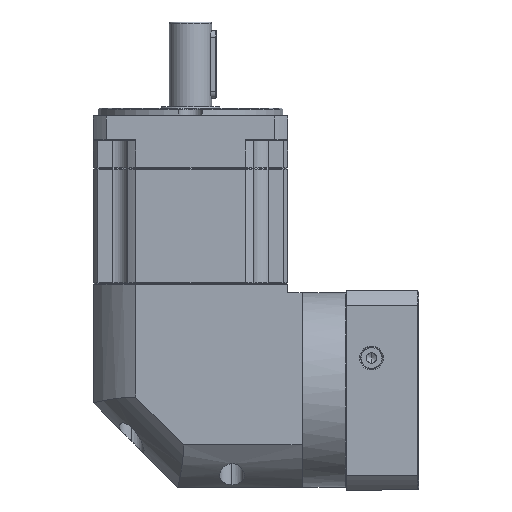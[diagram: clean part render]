
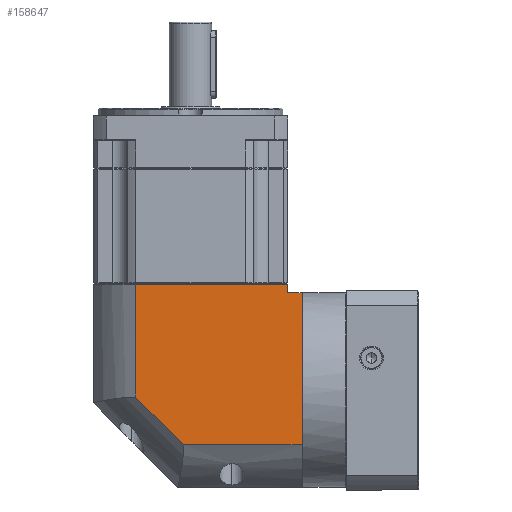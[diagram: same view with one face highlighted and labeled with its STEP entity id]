
A CAD part, left-side view. The second image highlights one B-rep face of the part: STEP entity #158647.
In plain terms, the highlighted planar face has unit normal (-1, 0, 0).
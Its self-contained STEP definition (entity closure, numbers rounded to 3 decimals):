
#1291 = EDGE_LOOP ( 'NONE', ( #126935, #92213, #116553, #98357, #66111, #42590, #87831 ) ) ;
#12212 = LINE ( 'NONE', #29931, #115059 ) ;
#12221 = VERTEX_POINT ( 'NONE', #53473 ) ;
#12896 = CARTESIAN_POINT ( 'NONE',  ( -232.004, 22.433, 127.551 ) ) ;
#13130 = DIRECTION ( 'NONE',  ( 0., 1., 0. ) ) ;
#15671 = DIRECTION ( 'NONE',  ( 0., -1., 0. ) ) ;
#29428 = EDGE_CURVE ( 'NONE', #156623, #12221, #62020, .T. ) ;
#29931 = CARTESIAN_POINT ( 'NONE',  ( -232.004, -5.905, 32.651 ) ) ;
#33280 = LINE ( 'NONE', #87295, #100334 ) ;
#34007 = VECTOR ( 'NONE', #138638, 1000. ) ;
#35844 = LINE ( 'NONE', #146867, #71514 ) ;
#38203 = LINE ( 'NONE', #139220, #34007 ) ;
#38593 = DIRECTION ( 'NONE',  ( 0., 1., 0. ) ) ;
#40062 = EDGE_CURVE ( 'NONE', #96187, #156623, #38203, .T. ) ;
#42590 = ORIENTED_EDGE ( 'NONE', *, *, #130346, .T. ) ;
#43925 = CARTESIAN_POINT ( 'NONE',  ( -232.004, 22.433, 60.989 ) ) ;
#48381 = AXIS2_PLACEMENT_3D ( 'NONE', #131970, #51672, #145518 ) ;
#49025 = VECTOR ( 'NONE', #38593, 1000. ) ;
#51672 = DIRECTION ( 'NONE',  ( 1., 0., 0. ) ) ;
#53052 = DIRECTION ( 'NONE',  ( 0., 0., 1. ) ) ;
#53473 = CARTESIAN_POINT ( 'NONE',  ( -232.004, -67.467, 127.551 ) ) ;
#53626 = VECTOR ( 'NONE', #15671, 1000. ) ;
#59707 = VERTEX_POINT ( 'NONE', #91115 ) ;
#62020 = LINE ( 'NONE', #95958, #53626 ) ;
#63709 = EDGE_CURVE ( 'NONE', #167077, #117389, #162215, .T. ) ;
#64556 = PLANE ( 'NONE',  #48381 ) ;
#66111 = ORIENTED_EDGE ( 'NONE', *, *, #63709, .T. ) ;
#71514 = VECTOR ( 'NONE', #53052, 1000. ) ;
#87295 = CARTESIAN_POINT ( 'NONE',  ( -232.004, -75.867, 134.051 ) ) ;
#87831 = ORIENTED_EDGE ( 'NONE', *, *, #29428, .F. ) ;
#88597 = EDGE_CURVE ( 'NONE', #59707, #138152, #151841, .T. ) ;
#91115 = CARTESIAN_POINT ( 'NONE',  ( -232.004, -75.867, 32.651 ) ) ;
#92213 = ORIENTED_EDGE ( 'NONE', *, *, #170048, .F. ) ;
#95958 = CARTESIAN_POINT ( 'NONE',  ( -232.004, 47.533, 127.551 ) ) ;
#96187 = VERTEX_POINT ( 'NONE', #43925 ) ;
#98357 = ORIENTED_EDGE ( 'NONE', *, *, #118686, .F. ) ;
#100334 = VECTOR ( 'NONE', #127749, 1000. ) ;
#101553 = CARTESIAN_POINT ( 'NONE',  ( -232.004, -5.905, 32.651 ) ) ;
#115059 = VECTOR ( 'NONE', #123743, 1000. ) ;
#116553 = ORIENTED_EDGE ( 'NONE', *, *, #88597, .F. ) ;
#117389 = VERTEX_POINT ( 'NONE', #159403 ) ;
#118686 = EDGE_CURVE ( 'NONE', #167077, #59707, #33280, .T. ) ;
#119426 = CARTESIAN_POINT ( 'NONE',  ( -232.004, 47.533, 32.651 ) ) ;
#119579 = CARTESIAN_POINT ( 'NONE',  ( -232.004, -75.867, 122.551 ) ) ;
#122337 = VECTOR ( 'NONE', #13130, 1000. ) ;
#123743 = DIRECTION ( 'NONE',  ( 0., 0.707, 0.707 ) ) ;
#126935 = ORIENTED_EDGE ( 'NONE', *, *, #40062, .F. ) ;
#127749 = DIRECTION ( 'NONE',  ( 0., 0., -1. ) ) ;
#130346 = EDGE_CURVE ( 'NONE', #117389, #12221, #35844, .T. ) ;
#131970 = CARTESIAN_POINT ( 'NONE',  ( -232.004, 47.533, 134.051 ) ) ;
#133365 = CARTESIAN_POINT ( 'NONE',  ( -232.004, -67.467, 122.551 ) ) ;
#133776 = FACE_OUTER_BOUND ( 'NONE', #1291, .T. ) ;
#138152 = VERTEX_POINT ( 'NONE', #101553 ) ;
#138638 = DIRECTION ( 'NONE',  ( 0., 0., 1. ) ) ;
#139220 = CARTESIAN_POINT ( 'NONE',  ( -232.004, 22.433, 134.051 ) ) ;
#145518 = DIRECTION ( 'NONE',  ( 0., 1., 0. ) ) ;
#146867 = CARTESIAN_POINT ( 'NONE',  ( -232.004, -67.467, 7.551 ) ) ;
#151841 = LINE ( 'NONE', #119426, #49025 ) ;
#156623 = VERTEX_POINT ( 'NONE', #12896 ) ;
#158647 = ADVANCED_FACE ( 'NONE', ( #133776 ), #64556, .F. ) ;
#159403 = CARTESIAN_POINT ( 'NONE',  ( -232.004, -67.467, 122.551 ) ) ;
#162215 = LINE ( 'NONE', #133365, #122337 ) ;
#167077 = VERTEX_POINT ( 'NONE', #119579 ) ;
#170048 = EDGE_CURVE ( 'NONE', #138152, #96187, #12212, .T. ) ;
